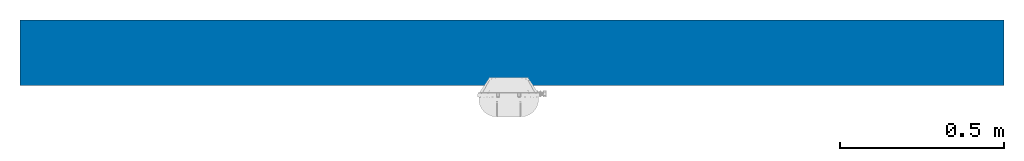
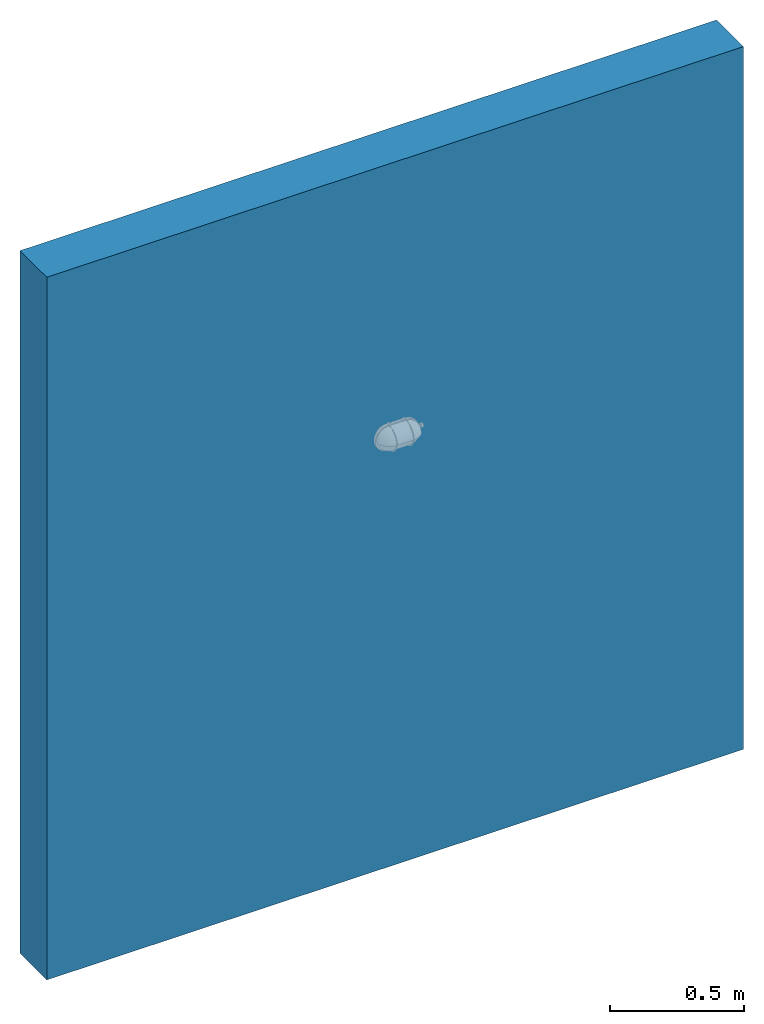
# One storey, part 1 of 2: 1 wall, 4 openings.
"""IFC2X3 building model written with IfcOpenShell, lengths in metres."""

from ifc_helpers import new_model, si_unit, direction, frame, frame_2d, origin, place, context, subcontext, project, spatial, rectangle, extrude, faceted_brep, material, layer, layer_set, layer_usage, type_object, element, save


model = new_model("IFC2X3")

# Units and contexts
model_context = context("Model", 3, precision=1e-05, world=origin(), true_north=direction((6.123233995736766e-17, 1.0)))
body_context = subcontext(model_context, "Body", "Model", "MODEL_VIEW")
ifc_project = project(units=[si_unit("LENGTHUNIT", "METRE"), si_unit("AREAUNIT", "SQUARE_METRE")], contexts=[model_context])

# Site, building, storey
site_placement = place(None, origin())
site = spatial("IfcSite", under=ifc_project, at=site_placement, Name="Default", CompositionType="ELEMENT")
building_placement = place(site_placement, origin())
building = spatial("IfcBuilding", under=site, at=building_placement, CompositionType="ELEMENT")
storey_placement = place(building_placement, origin())
storey = spatial("IfcBuildingStorey", under=building, at=storey_placement, Name="Level 1", CompositionType="ELEMENT", Elevation=0.0)

# Wall, openings
ifc_material = material(Name="Default Wall")
ifc_layer = layer(ifc_material, 0.2)
ifc_layer_set = layer_set([ifc_layer], Name="Basic Wall:Wall 20cm2")
ifc_layer_usage = layer_usage(ifc_layer_set, "AXIS2", "NEGATIVE", 0.1)
wall_type = type_object("IfcWallType", Name="Basic Wall:Wall 20cm2", PredefinedType="STANDARD", material=ifc_layer_set)
wall_placement = place(storey_placement, frame((-6.897968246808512, 1.6269733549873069, 0.0)))
wall = element("IfcWallStandardCase", 1, at=wall_placement, inside=storey, type_object=wall_type, material=ifc_layer_usage, Name="Basic Wall:Wall 20cm2", ObjectType="Basic Wall:Wall 20cm2", context=body_context, shape_type="SweptSolid", body=[
    extrude(rectangle(XDim=3.0000000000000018, YDim=0.2, at=frame_2d((1.5000000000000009, -6.938893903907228e-17), x_axis=(-1.0, 0.0))), origin(), (0.0, 0.0, 1.0), 3.2),
])
opening_1_placement = place(wall_placement, frame((6.897968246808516, -1.6269733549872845, 1.9824999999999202)))
element("IfcOpeningElement", 2, at=opening_1_placement, cuts=wall, Name="Basic Wall:Wall 20cm2", ObjectType="Opening", context=body_context, shape_type="Brep", body=[
    faceted_brep([(-5.439492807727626, 1.4914495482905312, 0.06095978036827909), (-5.4414928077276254, 1.491449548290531, 0.06095978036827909), (-5.4414928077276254, 1.491449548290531, 0.059473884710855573), (-5.442992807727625, 1.491449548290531, 0.05947388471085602), (-5.442992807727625, 1.491449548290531, 0.05767388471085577), (-5.4414928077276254, 1.491449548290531, 0.05767388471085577), (-5.4414928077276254, 1.491449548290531, 0.056173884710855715), (-5.439492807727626, 1.4914495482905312, 0.056173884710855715), (-5.439492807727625, 1.4914495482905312, 0.05767388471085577), (-5.43799072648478, 1.4914495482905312, 0.05767388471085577), (-5.437990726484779, 1.4914495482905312, 0.059473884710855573), (-5.439492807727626, 1.4914495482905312, 0.05947388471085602), (-5.439892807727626, 1.49281957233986, 0.06055978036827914), (-5.439892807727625, 1.49281957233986, 0.05907388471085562), (-5.43839072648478, 1.49281957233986, 0.05907388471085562), (-5.43839072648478, 1.49281957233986, 0.05807388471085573), (-5.439892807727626, 1.49281957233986, 0.05807388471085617), (-5.439892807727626, 1.49281957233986, 0.05657388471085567), (-5.4410928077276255, 1.4928195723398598, 0.05657388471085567), (-5.4410928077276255, 1.4928195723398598, 0.05807388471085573), (-5.4425928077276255, 1.4928195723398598, 0.05807388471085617), (-5.4425928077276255, 1.4928195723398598, 0.05907388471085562), (-5.4410928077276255, 1.4928195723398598, 0.05907388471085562), (-5.4410928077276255, 1.4928195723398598, 0.06055978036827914)], [[[0, 1, 2, 3, 4, 5, 6, 7, 8, 9, 10, 11]], [[12, 13, 14, 15, 16, 17, 18, 19, 20, 21, 22, 23]], [[12, 23, 1, 0]], [[23, 22, 2, 1]], [[22, 21, 3, 2]], [[21, 20, 4, 3]], [[20, 19, 5, 4]], [[19, 18, 6, 5]], [[18, 17, 7, 6]], [[17, 16, 8, 7]], [[16, 15, 9, 8]], [[15, 14, 10, 9]], [[14, 13, 11, 10]], [[13, 12, 0, 11]]]),
])
opening_2_placement = place(wall_placement, frame((6.897968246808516, -1.6269733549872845, 1.9824999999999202)))
element("IfcOpeningElement", 3, at=opening_2_placement, cuts=wall, Name="Basic Wall:Wall 20cm2", ObjectType="Opening", context=body_context, shape_type="Brep", body=[
    faceted_brep([(-5.376443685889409, 1.491449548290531, 0.06095978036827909), (-5.37644368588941, 1.491449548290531, 0.059473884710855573), (-5.377945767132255, 1.491449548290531, 0.05947388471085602), (-5.377945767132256, 1.491449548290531, 0.05767388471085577), (-5.376443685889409, 1.491449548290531, 0.05767388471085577), (-5.376443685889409, 1.491449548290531, 0.056173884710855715), (-5.37444368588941, 1.491449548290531, 0.056173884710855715), (-5.37444368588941, 1.491449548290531, 0.05767388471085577), (-5.37294368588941, 1.491449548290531, 0.05767388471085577), (-5.37294368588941, 1.491449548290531, 0.059473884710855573), (-5.37444368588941, 1.491449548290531, 0.05947388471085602), (-5.37444368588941, 1.491449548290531, 0.06095978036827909), (-5.376043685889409, 1.4928195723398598, 0.06055978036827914), (-5.3748436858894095, 1.4928195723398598, 0.06055978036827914), (-5.3748436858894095, 1.4928195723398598, 0.05907388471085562), (-5.37334368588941, 1.4928195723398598, 0.05907388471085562), (-5.37334368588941, 1.4928195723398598, 0.05807388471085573), (-5.3748436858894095, 1.4928195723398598, 0.05807388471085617), (-5.3748436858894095, 1.4928195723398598, 0.05657388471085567), (-5.376043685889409, 1.4928195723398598, 0.05657388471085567), (-5.37604368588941, 1.4928195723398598, 0.05807388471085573), (-5.377545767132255, 1.4928195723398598, 0.05807388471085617), (-5.377545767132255, 1.4928195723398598, 0.05907388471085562), (-5.376043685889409, 1.4928195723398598, 0.05907388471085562)], [[[0, 1, 2, 3, 4, 5, 6, 7, 8, 9, 10, 11]], [[12, 13, 14, 15, 16, 17, 18, 19, 20, 21, 22, 23]], [[12, 0, 11, 13]], [[13, 11, 10, 14]], [[14, 10, 9, 15]], [[15, 9, 8, 16]], [[16, 8, 7, 17]], [[17, 7, 6, 18]], [[18, 6, 5, 19]], [[19, 5, 4, 20]], [[20, 4, 3, 21]], [[21, 3, 2, 22]], [[22, 2, 1, 23]], [[23, 1, 0, 12]]]),
])
opening_3_placement = place(wall_placement, frame((6.897968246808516, -1.6269733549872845, 1.9824999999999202)))
element("IfcOpeningElement", 4, at=opening_3_placement, cuts=wall, Name="Basic Wall:Wall 20cm2", ObjectType="Opening", context=body_context, shape_type="Brep", body=[
    faceted_brep([(-5.439492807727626, 1.4914495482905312, -0.060959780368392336), (-5.439492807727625, 1.4914495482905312, -0.059473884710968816), (-5.43799072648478, 1.4914495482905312, -0.05947388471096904), (-5.437990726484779, 1.4914495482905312, -0.057673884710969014), (-5.439492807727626, 1.4914495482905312, -0.057673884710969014), (-5.439492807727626, 1.4914495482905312, -0.05617388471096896), (-5.4414928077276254, 1.491449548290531, -0.05617388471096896), (-5.4414928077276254, 1.491449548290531, -0.057673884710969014), (-5.442992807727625, 1.491449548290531, -0.057673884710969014), (-5.442992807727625, 1.491449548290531, -0.059473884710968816), (-5.4414928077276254, 1.491449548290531, -0.05947388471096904), (-5.4414928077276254, 1.491449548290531, -0.060959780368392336), (-5.439892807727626, 1.49281957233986, -0.06055978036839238), (-5.4410928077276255, 1.4928195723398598, -0.06055978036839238), (-5.4410928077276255, 1.4928195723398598, -0.05907388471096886), (-5.4425928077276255, 1.4928195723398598, -0.05907388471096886), (-5.4425928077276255, 1.4928195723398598, -0.05807388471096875), (-5.4410928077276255, 1.4928195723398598, -0.05807388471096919), (-5.4410928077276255, 1.4928195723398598, -0.056573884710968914), (-5.439892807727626, 1.49281957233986, -0.056573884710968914), (-5.439892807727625, 1.49281957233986, -0.05807388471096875), (-5.43839072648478, 1.49281957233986, -0.05807388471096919), (-5.43839072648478, 1.49281957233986, -0.05907388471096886), (-5.439892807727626, 1.49281957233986, -0.05907388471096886)], [[[0, 1, 2, 3, 4, 5, 6, 7, 8, 9, 10, 11]], [[12, 13, 14, 15, 16, 17, 18, 19, 20, 21, 22, 23]], [[12, 0, 11, 13]], [[13, 11, 10, 14]], [[14, 10, 9, 15]], [[15, 9, 8, 16]], [[16, 8, 7, 17]], [[17, 7, 6, 18]], [[18, 6, 5, 19]], [[19, 5, 4, 20]], [[20, 4, 3, 21]], [[21, 3, 2, 22]], [[22, 2, 1, 23]], [[23, 1, 0, 12]]]),
])
opening_4_placement = place(wall_placement, frame((6.897968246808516, -1.6269733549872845, 1.9824999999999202)))
element("IfcOpeningElement", 5, at=opening_4_placement, cuts=wall, Name="Basic Wall:Wall 20cm2", ObjectType="Opening", context=body_context, shape_type="Brep", body=[
    faceted_brep([(-5.376443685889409, 1.491449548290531, -0.060959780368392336), (-5.37444368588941, 1.491449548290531, -0.060959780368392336), (-5.37444368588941, 1.491449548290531, -0.059473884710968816), (-5.37294368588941, 1.491449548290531, -0.05947388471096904), (-5.37294368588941, 1.491449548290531, -0.057673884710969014), (-5.37444368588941, 1.491449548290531, -0.057673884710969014), (-5.37444368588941, 1.491449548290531, -0.05617388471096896), (-5.376443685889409, 1.491449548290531, -0.05617388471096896), (-5.37644368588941, 1.491449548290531, -0.057673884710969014), (-5.377945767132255, 1.491449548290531, -0.057673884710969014), (-5.377945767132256, 1.491449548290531, -0.059473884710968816), (-5.376443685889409, 1.491449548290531, -0.05947388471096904), (-5.376043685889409, 1.4928195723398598, -0.06055978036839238), (-5.37604368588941, 1.4928195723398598, -0.05907388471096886), (-5.377545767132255, 1.4928195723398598, -0.05907388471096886), (-5.377545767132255, 1.4928195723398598, -0.05807388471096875), (-5.376043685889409, 1.4928195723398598, -0.05807388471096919), (-5.376043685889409, 1.4928195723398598, -0.056573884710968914), (-5.3748436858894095, 1.4928195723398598, -0.056573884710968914), (-5.3748436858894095, 1.4928195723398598, -0.05807388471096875), (-5.37334368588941, 1.4928195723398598, -0.05807388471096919), (-5.37334368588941, 1.4928195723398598, -0.05907388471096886), (-5.3748436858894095, 1.4928195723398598, -0.05907388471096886), (-5.3748436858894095, 1.4928195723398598, -0.06055978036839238)], [[[0, 1, 2, 3, 4, 5, 6, 7, 8, 9, 10, 11]], [[12, 13, 14, 15, 16, 17, 18, 19, 20, 21, 22, 23]], [[12, 23, 1, 0]], [[23, 22, 2, 1]], [[22, 21, 3, 2]], [[21, 20, 4, 3]], [[20, 19, 5, 4]], [[19, 18, 6, 5]], [[18, 17, 7, 6]], [[17, 16, 8, 7]], [[16, 15, 9, 8]], [[15, 14, 10, 9]], [[14, 13, 11, 10]], [[13, 12, 0, 11]]]),
])

save(model, "model.ifc")
